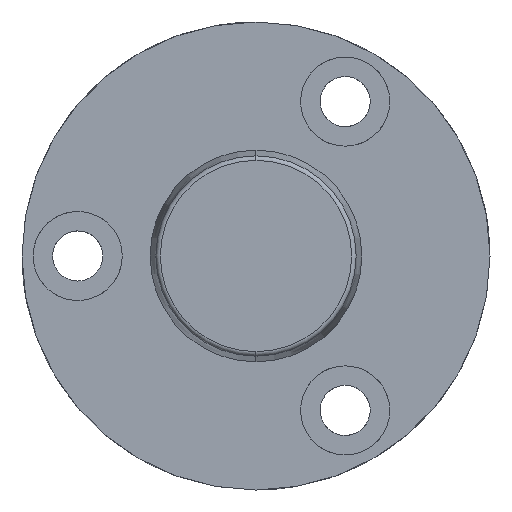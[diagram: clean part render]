
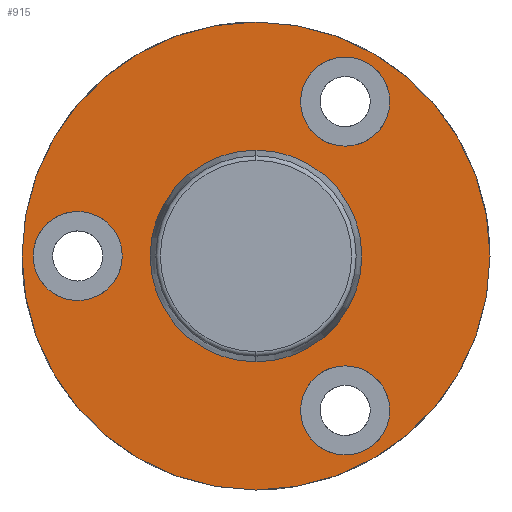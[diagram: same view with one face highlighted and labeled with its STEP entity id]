
A CAD part, left-side view. The second image highlights one B-rep face of the part: STEP entity #915.
In plain terms, the highlighted planar face has unit normal (-1, 0, 0).
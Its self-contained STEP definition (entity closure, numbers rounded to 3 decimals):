
#429=CARTESIAN_POINT('Vertex',(-8.,0.,-21.)) ;
#432=CARTESIAN_POINT('Axis2P3D Location',(-8.,0.,0.)) ;
#436=CARTESIAN_POINT('Vertex',(-8.,21.,0.)) ;
#439=CARTESIAN_POINT('Axis2P3D Location',(-8.,0.,0.)) ;
#443=CARTESIAN_POINT('Vertex',(-8.,0.,21.)) ;
#465=CARTESIAN_POINT('Axis2P3D Location',(-8.,0.,0.)) ;
#469=CARTESIAN_POINT('Vertex',(-8.,-21.,0.)) ;
#472=CARTESIAN_POINT('Axis2P3D Location',(-8.,0.,0.)) ;
#768=CARTESIAN_POINT('Axis2P3D Location',(-8.,8.,0.)) ;
#779=CARTESIAN_POINT('Axis2P3D Location',(-8.,16.,0.)) ;
#783=CARTESIAN_POINT('Vertex',(-8.,16.,4.)) ;
#785=CARTESIAN_POINT('Vertex',(-8.,20.,0.)) ;
#788=CARTESIAN_POINT('Axis2P3D Location',(-8.,16.,0.)) ;
#792=CARTESIAN_POINT('Vertex',(-8.,12.,0.)) ;
#795=CARTESIAN_POINT('Axis2P3D Location',(-8.,16.,0.)) ;
#799=CARTESIAN_POINT('Vertex',(-8.,16.,-4.)) ;
#802=CARTESIAN_POINT('Axis2P3D Location',(-8.,16.,0.)) ;
#813=CARTESIAN_POINT('Axis2P3D Location',(-8.,-8.,13.856)) ;
#817=CARTESIAN_POINT('Vertex',(-8.,-4.,13.856)) ;
#819=CARTESIAN_POINT('Vertex',(-8.,-8.,17.856)) ;
#822=CARTESIAN_POINT('Axis2P3D Location',(-8.,-8.,13.856)) ;
#826=CARTESIAN_POINT('Vertex',(-8.,-12.,13.856)) ;
#829=CARTESIAN_POINT('Axis2P3D Location',(-8.,-8.,13.856)) ;
#833=CARTESIAN_POINT('Vertex',(-8.,-8.,9.856)) ;
#836=CARTESIAN_POINT('Axis2P3D Location',(-8.,-8.,13.856)) ;
#847=CARTESIAN_POINT('Axis2P3D Location',(-8.,-8.,-13.856)) ;
#851=CARTESIAN_POINT('Vertex',(-8.,-4.,-13.856)) ;
#853=CARTESIAN_POINT('Vertex',(-8.,-8.,-9.856)) ;
#856=CARTESIAN_POINT('Axis2P3D Location',(-8.,-8.,-13.856)) ;
#860=CARTESIAN_POINT('Vertex',(-8.,-12.,-13.856)) ;
#863=CARTESIAN_POINT('Axis2P3D Location',(-8.,-8.,-13.856)) ;
#867=CARTESIAN_POINT('Vertex',(-8.,-8.,-17.856)) ;
#870=CARTESIAN_POINT('Axis2P3D Location',(-8.,-8.,-13.856)) ;
#881=CARTESIAN_POINT('Axis2P3D Location',(-8.,0.,0.)) ;
#885=CARTESIAN_POINT('Vertex',(-8.,8.,0.)) ;
#887=CARTESIAN_POINT('Vertex',(-8.,0.,8.)) ;
#890=CARTESIAN_POINT('Axis2P3D Location',(-8.,0.,0.)) ;
#894=CARTESIAN_POINT('Vertex',(-8.,-8.,0.)) ;
#897=CARTESIAN_POINT('Axis2P3D Location',(-8.,0.,0.)) ;
#901=CARTESIAN_POINT('Vertex',(-8.,0.,-8.)) ;
#904=CARTESIAN_POINT('Axis2P3D Location',(-8.,0.,0.)) ;
#433=DIRECTION('Axis2P3D Direction',(-1.,-0.,-0.)) ;
#440=DIRECTION('Axis2P3D Direction',(-1.,-0.,-0.)) ;
#466=DIRECTION('Axis2P3D Direction',(-1.,-0.,-0.)) ;
#473=DIRECTION('Axis2P3D Direction',(-1.,-0.,-0.)) ;
#769=DIRECTION('Axis2P3D Direction',(1.,0.,-0.)) ;
#770=DIRECTION('Axis2P3D XDirection',(-0.,0.,-1.)) ;
#780=DIRECTION('Axis2P3D Direction',(1.,0.,-0.)) ;
#789=DIRECTION('Axis2P3D Direction',(1.,0.,-0.)) ;
#796=DIRECTION('Axis2P3D Direction',(1.,0.,-0.)) ;
#803=DIRECTION('Axis2P3D Direction',(1.,0.,-0.)) ;
#814=DIRECTION('Axis2P3D Direction',(1.,0.,-0.)) ;
#823=DIRECTION('Axis2P3D Direction',(1.,0.,-0.)) ;
#830=DIRECTION('Axis2P3D Direction',(1.,0.,-0.)) ;
#837=DIRECTION('Axis2P3D Direction',(1.,0.,-0.)) ;
#848=DIRECTION('Axis2P3D Direction',(1.,0.,-0.)) ;
#857=DIRECTION('Axis2P3D Direction',(1.,0.,-0.)) ;
#864=DIRECTION('Axis2P3D Direction',(1.,0.,-0.)) ;
#871=DIRECTION('Axis2P3D Direction',(1.,0.,-0.)) ;
#882=DIRECTION('Axis2P3D Direction',(1.,0.,-0.)) ;
#891=DIRECTION('Axis2P3D Direction',(1.,0.,-0.)) ;
#898=DIRECTION('Axis2P3D Direction',(1.,0.,-0.)) ;
#905=DIRECTION('Axis2P3D Direction',(1.,0.,-0.)) ;
#434=AXIS2_PLACEMENT_3D('Circle Axis2P3D',#432,#433,$) ;
#441=AXIS2_PLACEMENT_3D('Circle Axis2P3D',#439,#440,$) ;
#467=AXIS2_PLACEMENT_3D('Circle Axis2P3D',#465,#466,$) ;
#474=AXIS2_PLACEMENT_3D('Circle Axis2P3D',#472,#473,$) ;
#771=AXIS2_PLACEMENT_3D('Plane Axis2P3D',#768,#769,#770) ;
#781=AXIS2_PLACEMENT_3D('Circle Axis2P3D',#779,#780,$) ;
#790=AXIS2_PLACEMENT_3D('Circle Axis2P3D',#788,#789,$) ;
#797=AXIS2_PLACEMENT_3D('Circle Axis2P3D',#795,#796,$) ;
#804=AXIS2_PLACEMENT_3D('Circle Axis2P3D',#802,#803,$) ;
#815=AXIS2_PLACEMENT_3D('Circle Axis2P3D',#813,#814,$) ;
#824=AXIS2_PLACEMENT_3D('Circle Axis2P3D',#822,#823,$) ;
#831=AXIS2_PLACEMENT_3D('Circle Axis2P3D',#829,#830,$) ;
#838=AXIS2_PLACEMENT_3D('Circle Axis2P3D',#836,#837,$) ;
#849=AXIS2_PLACEMENT_3D('Circle Axis2P3D',#847,#848,$) ;
#858=AXIS2_PLACEMENT_3D('Circle Axis2P3D',#856,#857,$) ;
#865=AXIS2_PLACEMENT_3D('Circle Axis2P3D',#863,#864,$) ;
#872=AXIS2_PLACEMENT_3D('Circle Axis2P3D',#870,#871,$) ;
#883=AXIS2_PLACEMENT_3D('Circle Axis2P3D',#881,#882,$) ;
#892=AXIS2_PLACEMENT_3D('Circle Axis2P3D',#890,#891,$) ;
#899=AXIS2_PLACEMENT_3D('Circle Axis2P3D',#897,#898,$) ;
#906=AXIS2_PLACEMENT_3D('Circle Axis2P3D',#904,#905,$) ;
#774=ORIENTED_EDGE('',*,*,#438,.F.) ;
#775=ORIENTED_EDGE('',*,*,#476,.F.) ;
#776=ORIENTED_EDGE('',*,*,#471,.F.) ;
#777=ORIENTED_EDGE('',*,*,#445,.F.) ;
#808=ORIENTED_EDGE('',*,*,#787,.F.) ;
#809=ORIENTED_EDGE('',*,*,#794,.F.) ;
#810=ORIENTED_EDGE('',*,*,#801,.F.) ;
#811=ORIENTED_EDGE('',*,*,#806,.F.) ;
#842=ORIENTED_EDGE('',*,*,#821,.T.) ;
#843=ORIENTED_EDGE('',*,*,#828,.T.) ;
#844=ORIENTED_EDGE('',*,*,#835,.T.) ;
#845=ORIENTED_EDGE('',*,*,#840,.T.) ;
#876=ORIENTED_EDGE('',*,*,#855,.T.) ;
#877=ORIENTED_EDGE('',*,*,#862,.T.) ;
#878=ORIENTED_EDGE('',*,*,#869,.T.) ;
#879=ORIENTED_EDGE('',*,*,#874,.T.) ;
#910=ORIENTED_EDGE('',*,*,#889,.T.) ;
#911=ORIENTED_EDGE('',*,*,#896,.T.) ;
#912=ORIENTED_EDGE('',*,*,#903,.T.) ;
#913=ORIENTED_EDGE('',*,*,#908,.T.) ;
#812=FACE_BOUND('',#807,.T.) ;
#846=FACE_BOUND('',#841,.T.) ;
#880=FACE_BOUND('',#875,.T.) ;
#914=FACE_BOUND('',#909,.T.) ;
#915=ADVANCED_FACE('721-19x180',(#778,#812,#846,#880,#914),#772,.F.) ;
#435=CIRCLE('generated circle',#434,21.) ;
#442=CIRCLE('generated circle',#441,21.) ;
#468=CIRCLE('generated circle',#467,21.) ;
#475=CIRCLE('generated circle',#474,21.) ;
#782=CIRCLE('generated circle',#781,4.) ;
#791=CIRCLE('generated circle',#790,4.) ;
#798=CIRCLE('generated circle',#797,4.) ;
#805=CIRCLE('generated circle',#804,4.) ;
#816=CIRCLE('generated circle',#815,4.) ;
#825=CIRCLE('generated circle',#824,4.) ;
#832=CIRCLE('generated circle',#831,4.) ;
#839=CIRCLE('generated circle',#838,4.) ;
#850=CIRCLE('generated circle',#849,4.) ;
#859=CIRCLE('generated circle',#858,4.) ;
#866=CIRCLE('generated circle',#865,4.) ;
#873=CIRCLE('generated circle',#872,4.) ;
#884=CIRCLE('generated circle',#883,8.) ;
#893=CIRCLE('generated circle',#892,8.) ;
#900=CIRCLE('generated circle',#899,8.) ;
#907=CIRCLE('generated circle',#906,8.) ;
#438=EDGE_CURVE('',#430,#437,#435,.F.) ;
#445=EDGE_CURVE('',#437,#444,#442,.F.) ;
#471=EDGE_CURVE('',#444,#470,#468,.F.) ;
#476=EDGE_CURVE('',#470,#430,#475,.F.) ;
#787=EDGE_CURVE('',#784,#786,#782,.F.) ;
#794=EDGE_CURVE('',#793,#784,#791,.F.) ;
#801=EDGE_CURVE('',#800,#793,#798,.F.) ;
#806=EDGE_CURVE('',#786,#800,#805,.F.) ;
#821=EDGE_CURVE('',#818,#820,#816,.T.) ;
#828=EDGE_CURVE('',#820,#827,#825,.T.) ;
#835=EDGE_CURVE('',#827,#834,#832,.T.) ;
#840=EDGE_CURVE('',#834,#818,#839,.T.) ;
#855=EDGE_CURVE('',#852,#854,#850,.T.) ;
#862=EDGE_CURVE('',#854,#861,#859,.T.) ;
#869=EDGE_CURVE('',#861,#868,#866,.T.) ;
#874=EDGE_CURVE('',#868,#852,#873,.T.) ;
#889=EDGE_CURVE('',#886,#888,#884,.T.) ;
#896=EDGE_CURVE('',#888,#895,#893,.T.) ;
#903=EDGE_CURVE('',#895,#902,#900,.T.) ;
#908=EDGE_CURVE('',#902,#886,#907,.T.) ;
#773=EDGE_LOOP('',(#774,#775,#776,#777)) ;
#807=EDGE_LOOP('',(#808,#809,#810,#811)) ;
#841=EDGE_LOOP('',(#842,#843,#844,#845)) ;
#875=EDGE_LOOP('',(#876,#877,#878,#879)) ;
#909=EDGE_LOOP('',(#910,#911,#912,#913)) ;
#778=FACE_OUTER_BOUND('',#773,.T.) ;
#772=PLANE('Plane',#771) ;
#430=VERTEX_POINT('',#429) ;
#437=VERTEX_POINT('',#436) ;
#444=VERTEX_POINT('',#443) ;
#470=VERTEX_POINT('',#469) ;
#784=VERTEX_POINT('',#783) ;
#786=VERTEX_POINT('',#785) ;
#793=VERTEX_POINT('',#792) ;
#800=VERTEX_POINT('',#799) ;
#818=VERTEX_POINT('',#817) ;
#820=VERTEX_POINT('',#819) ;
#827=VERTEX_POINT('',#826) ;
#834=VERTEX_POINT('',#833) ;
#852=VERTEX_POINT('',#851) ;
#854=VERTEX_POINT('',#853) ;
#861=VERTEX_POINT('',#860) ;
#868=VERTEX_POINT('',#867) ;
#886=VERTEX_POINT('',#885) ;
#888=VERTEX_POINT('',#887) ;
#895=VERTEX_POINT('',#894) ;
#902=VERTEX_POINT('',#901) ;
